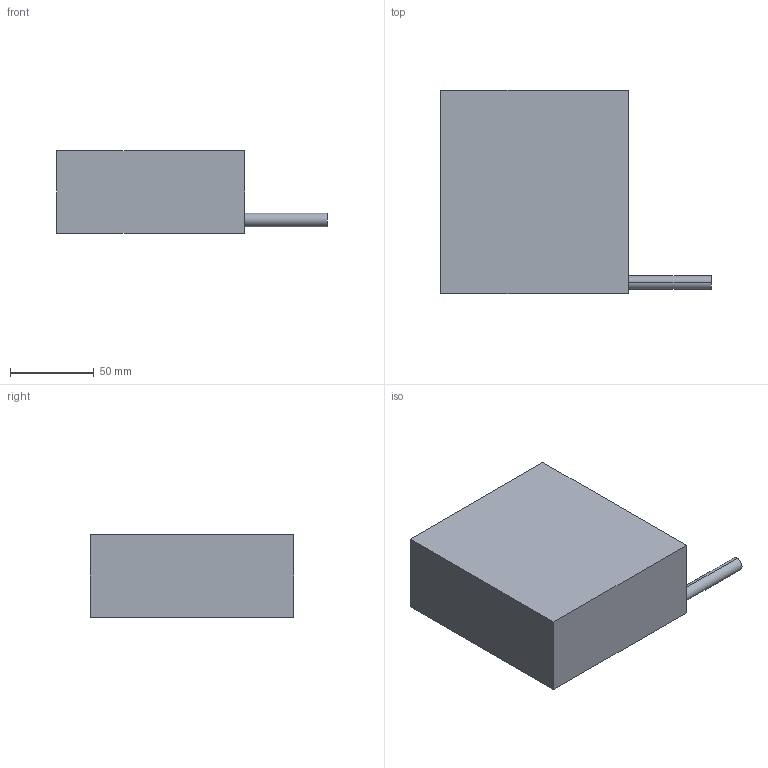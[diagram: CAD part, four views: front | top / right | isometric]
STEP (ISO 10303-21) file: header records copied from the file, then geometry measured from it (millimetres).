
FILE_DESCRIPTION (( 'STEP AP214' ), '1' );
FILE_NAME ('FLM-121-112.STEP', '2022-05-12T08:05:38', ( 'Microsoft' ), ( 'Microsoft' ), 'SwSTEP 2.0', 'SolidWorks 2016', '' );
FILE_SCHEMA (( 'AUTOMOTIVE_DESIGN' ));
Length unit declared in the file: millimetre
Products named in the file (1): FLM-121-112
Bounding box: 161.3 x 121 x 49.3 mm (x, y, z)
Volume: 669842 mm3; surface area: 51963.3 mm2
Topology: 1 solids, 1 shells, 63 faces, 144 edges, 75 vertices
Faces by surface type: cone 36, cylinder 20, plane 7
Entity records: 1854 total; most frequent: DIRECTION 312, CARTESIAN_POINT 265, ORIENTED_EDGE 252, EDGE_CURVE 126, AXIS2_PLACEMENT_3D 122, VERTEX_POINT 75, EDGE_LOOP 73, LINE 68
